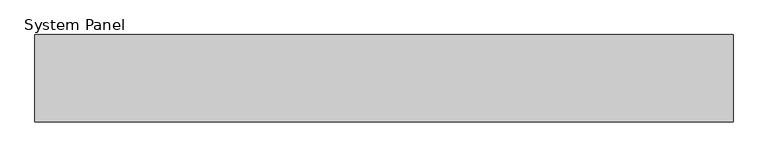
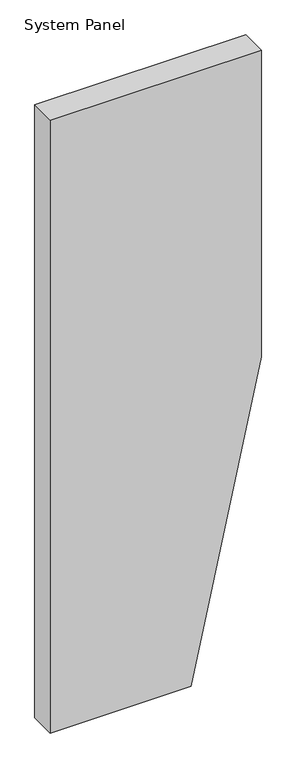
"""IFC4 building model written with IfcOpenShell, lengths in millimetres: plate geometry, System Panel : Equitilt 150mm Vertical - Plain RHEA - MW."""

from ifc_helpers import new_model, si_unit, frame, origin, place, context, project, spatial, polyline, outline, extrude, source, transform, mapped, element, save


def system_panel_1b485f75(model_context):
    return source(origin(), model_context, "Body", "SweptSolid", [
        extrude(outline(polyline([(0.0, -600.0), (0.0, 200.0), (1839.9852118, 600.0), (3679.9704237, 600.0), (3679.9704237, -600.0), (0.0, -600.0)])), frame((0.0, -150.0, 0.0), z_axis=(0.0, 1.0, 0.0), x_axis=(0.0, 0.0, 1.0)), (0.0, 0.0, 1.0), 150.0),
    ])


if __name__ == "__main__":
    model = new_model("IFC4")
    model_context = context("Model", 3, world=origin())
    ifc_project = project(units=[si_unit("LENGTHUNIT", "METRE", prefix="MILLI")], contexts=[model_context])
    site = spatial("IfcSite", under=ifc_project)
    building = spatial("IfcBuilding", under=site)
    placement = place(None, origin())
    system_panel_shape = system_panel_1b485f75(model_context)
    element("IfcPlate", 1, ObjectType="System Panel : Equitilt 150mm Vertical - Plain RHEA - MW", at=placement, inside=building, context=model_context, shape_type="MappedRepresentation", body=[
        mapped(system_panel_shape, transform((0.0, 0.0, 0.0), x_axis=(1.0, 0.0, 0.0), y_axis=(0.0, 1.0, 0.0), z_axis=(0.0, 0.0, 1.0))),
    ])
    save(model, "model.ifc")
